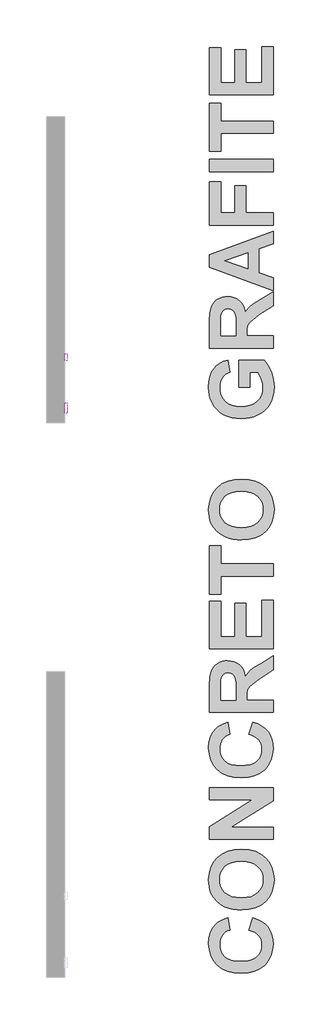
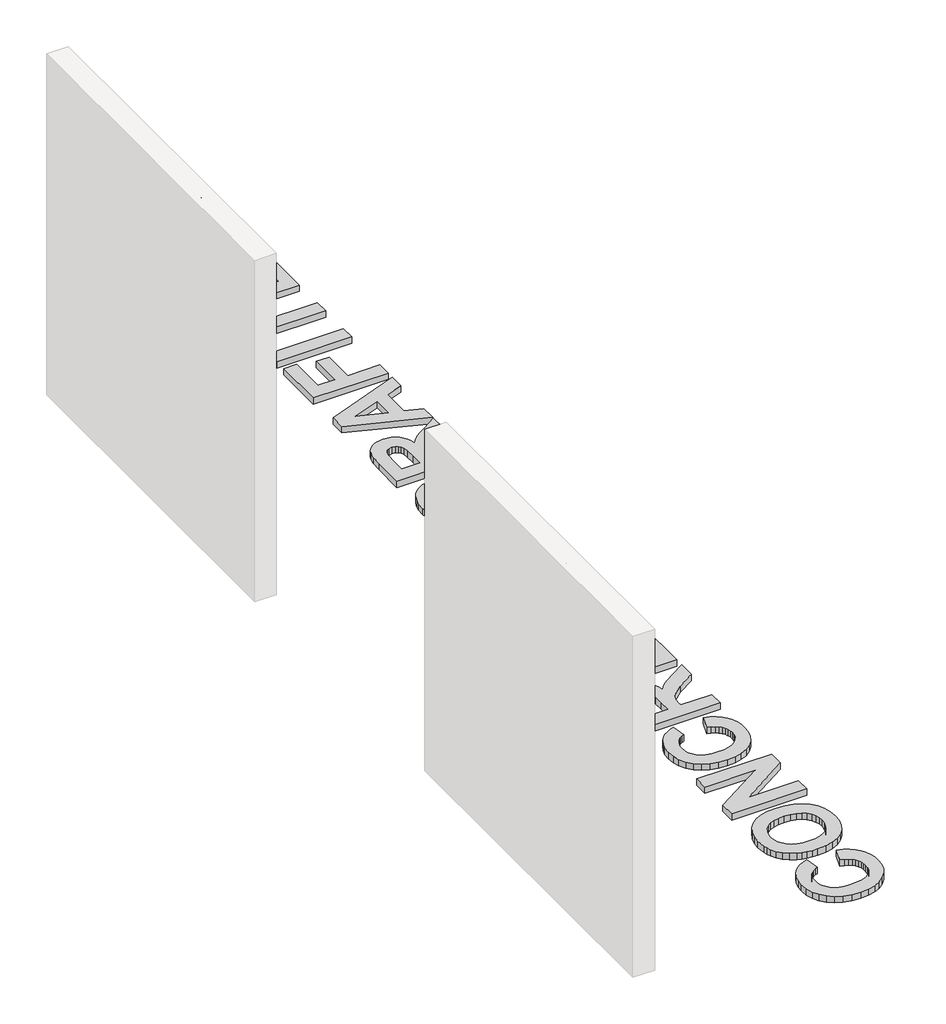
# One storey, part 5 of 6: 4 proxies.
"""IFC4 building model written with IfcOpenShell, lengths in millimetres."""

from ifc_helpers import new_model, si_unit, frame, origin, origin_with_axes, place, context, project, spatial, polyline, outline, extrude, element, save

model = new_model("IFC4")

# Units and contexts
model_context = context("Model", 3, world=origin())
ifc_project = project(units=[si_unit("LENGTHUNIT", "METRE", prefix="MILLI")], contexts=[model_context])

# Site, building, storey
site = spatial("IfcSite", under=ifc_project)
building = spatial("IfcBuilding", under=site)
storey = spatial("IfcBuildingStorey", under=building, Name="PORTOBELLO - SHOWROOM", Elevation=0.0)

# Proxies
placement = place(None, origin())
element("IfcBuildingElementProxy", 1, Name="10mm Arial", ObjectType="10mm Arial", at=placement, inside=storey, context=model_context, shape_type="SweptSolid", body=[
    extrude(outline(polyline([(10439.14637, 2557.7153138), (10439.14637, 2570.2723526), (10479.956746, 2570.2723526), (10479.956746, 2532.7238636), (10459.8090754, 2520.8780634), (10438.5087079, 2516.9049378), (10424.4218932, 2518.4837647), (10411.6901104, 2523.2202454), (10401.1135031, 2530.948833), (10393.4922144, 2541.5039806), (10388.8844924, 2554.1652526), (10387.3485851, 2568.2122134), (10388.8783611, 2582.3603418), (10393.467689, 2595.5213202), (10400.9264964, 2606.5608457), (10411.0647111, 2614.3446156), (10423.4132834, 2618.9615346), (10437.5031638, 2620.5005077), (10457.1480623, 2616.9320523), (10470.9191117, 2606.9992384), (10478.5097435, 2590.383235), (10466.9337234, 2587.121348), (10461.207027, 2598.7341563), (10451.4213659, 2605.4296086), (10437.30696, 2607.9434689), (10421.2305169, 2605.2334049), (10410.2921589, 2598.1210196), (10403.8296985, 2588.4457231), (10399.9056239, 2568.7272482), (10404.6267761, 2546.8382695), (10418.3610373, 2533.7416705), (10437.5031638, 2529.4619766), (10454.6832529, 2532.6870754), (10467.3997072, 2539.5664687), (10467.3997072, 2557.7153138), (10439.14637, 2557.7153138)])), frame((-21726.2609603, 0.0, 0.0), z_axis=(1.0, 0.0, 0.0), x_axis=(0.0, 1.0, 0.0)), (0.0, 0.0, 1.0), 20.0),
    extrude(outline(polyline([(10498.7923042, 2518.4745677), (10498.7923042, 2592.2471704), (10509.7797131, 2592.2471704), (10509.7797131, 2581.3333379), (10517.5788114, 2591.3887791), (10525.4269606, 2593.8168003), (10538.0330503, 2589.9417766), (10533.8391956, 2578.6845875), (10525.0100277, 2581.2597615), (10517.9099052, 2578.7826894), (10513.3849566, 2571.9155588), (10511.3493429, 2557.24933), (10511.3493429, 2518.4745677), (10498.7923042, 2518.4745677)])), frame((-21726.2609603, 0.0, 0.0), z_axis=(1.0, 0.0, 0.0), x_axis=(0.0, 1.0, 0.0)), (0.0, 0.0, 1.0), 20.0),
    extrude(outline(polyline([(10592.9700949, 2527.8923467), (10580.7932009, 2519.3820099), (10567.3409826, 2516.9049378), (10556.8471487, 2518.3948599), (10549.1062984, 2522.8646261), (10544.3330295, 2529.6520489), (10542.7419399, 2538.0949407), (10545.1454356, 2548.0277546), (10551.4607431, 2555.2382417), (10560.2531228, 2559.3585201), (10571.1179044, 2561.246981), (10592.8965185, 2565.563463), (10592.9700949, 2568.3593662), (10589.5120042, 2577.6299925), (10575.6305902, 2581.2597615), (10562.9263987, 2578.8440031), (10556.8686085, 2570.2723526), (10544.3115697, 2571.8419824), (10549.7439605, 2584.1047156), (10560.6823185, 2591.2906772), (10577.249271, 2593.8168003), (10592.4673229, 2591.5849828), (10601.0634988, 2585.9809138), (10604.913997, 2577.4583142), (10605.5271337, 2566.4709053), (10605.5271337, 2550.8481832), (10606.1647958, 2529.0327809), (10608.6663934, 2518.4745677), (10596.1093546, 2518.4745677), (10592.9700949, 2527.8923467)]), holes=[polyline([(10592.9700949, 2553.0064243), (10572.7120597, 2549.1559261), (10561.9085918, 2547.1203124), (10557.0157613, 2543.8093744), (10555.2989786, 2538.9778575), (10559.0391122, 2532.1843033), (10570.0142584, 2529.4619766), (10582.71845, 2532.4663462), (10590.9099558, 2539.738147), (10592.8965185, 2549.4502317), (10592.9700949, 2553.0064243)])]), frame((-21726.2609603, 0.0, 0.0), z_axis=(1.0, 0.0, 0.0), x_axis=(0.0, 1.0, 0.0)), (0.0, 0.0, 1.0), 20.0),
    extrude(outline(polyline([(10625.9323217, 2518.4745677), (10625.9323217, 2579.6901317), (10614.9449128, 2579.6901317), (10614.9449128, 2592.2471704), (10625.9323217, 2592.2471704), (10625.9323217, 2599.6783867), (10627.2566969, 2610.1507609), (10633.6823691, 2617.6310281), (10646.3375097, 2620.5005077), (10657.7909025, 2619.1270815), (10655.9514925, 2607.3548577), (10648.7164799, 2607.9434689), (10640.807017, 2605.8588043), (10638.4893605, 2598.0842314), (10638.4893605, 2592.2471704), (10652.6160291, 2592.2471704), (10652.6160291, 2579.6901317), (10638.4893605, 2579.6901317), (10638.4893605, 2518.4745677), (10625.9323217, 2518.4745677)])), frame((-21726.2609603, 0.0, 0.0), z_axis=(1.0, 0.0, 0.0), x_axis=(0.0, 1.0, 0.0)), (0.0, 0.0, 1.0), 20.0),
    extrude(outline(polyline([(-21706.2609603, 10676.1604768), (-21706.2609603, 10663.603438), (-21726.2609603, 10663.603438), (-21726.2609603, 10676.1604768), (-21706.2609603, 10676.1604768)])), frame((0.0, 0.0, 2606.373839), z_axis=(0.0, 0.0, 1.0), x_axis=(1.0, 0.0, 0.0)), (0.0, 0.0, 1.0), 12.5570388),
    extrude(outline(polyline([(-21706.2609603, 10676.1604768), (-21706.2609603, 10663.603438), (-21726.2609603, 10663.603438), (-21726.2609603, 10676.1604768), (-21706.2609603, 10676.1604768)])), frame((0.0, 0.0, 2518.4745677), z_axis=(0.0, 0.0, 1.0), x_axis=(1.0, 0.0, 0.0)), (0.0, 0.0, 1.0), 73.7726028),
    extrude(outline(polyline([(10721.6797423, 2528.9469418), (10723.2493722, 2518.1066857), (10713.8561186, 2516.9049378), (10703.3346935, 2518.9896025), (10698.0862437, 2524.4587815), (10696.5656648, 2538.7080774), (10696.5656648, 2579.6901317), (10687.1478857, 2579.6901317), (10687.1478857, 2592.2471704), (10696.5656648, 2592.2471704), (10696.5656648, 2610.1752863), (10709.1227035, 2617.5574517), (10709.1227035, 2592.2471704), (10721.6797423, 2592.2471704), (10721.6797423, 2579.6901317), (10709.1227035, 2579.6901317), (10709.1227035, 2539.0759594), (10709.7848911, 2532.6012363), (10711.9308694, 2530.3081052), (10716.2105633, 2529.4619766), (10721.6797423, 2528.9469418)])), frame((-21726.2609603, 0.0, 0.0), z_axis=(1.0, 0.0, 0.0), x_axis=(0.0, 1.0, 0.0)), (0.0, 0.0, 1.0), 20.0),
    extrude(outline(polyline([(10785.8874132, 2540.4493855), (10798.1991973, 2538.8797557), (10793.7631536, 2529.602998), (10786.6844909, 2522.6684224), (10777.1226247, 2518.345809), (10765.2369705, 2516.9049378), (10750.5032966, 2519.391207), (10739.1663998, 2526.8500144), (10731.9375186, 2538.7969822), (10729.5278915, 2554.7477324), (10731.9620441, 2571.2349771), (10739.2645017, 2583.5651553), (10750.4481143, 2591.253889), (10764.525732, 2593.8168003), (10778.164957, 2591.2600204), (10789.0634611, 2583.5896808), (10796.2095689, 2571.2840281), (10798.5916048, 2554.8213088), (10798.5180284, 2551.4367944), (10742.0849303, 2551.4367944), (10744.2584998, 2542.0374095), (10749.3076802, 2535.1273593), (10756.5948093, 2530.8783223), (10765.4822252, 2529.4619766), (10777.7940093, 2532.0862015), (10785.8874132, 2540.4493855)]), holes=[polyline([(10742.0849303, 2563.9938332), (10786.034566, 2563.9938332), (10781.0068454, 2575.3736496), (10773.6859937, 2579.7882335), (10764.4766811, 2581.2597615), (10749.0133746, 2576.5631347), (10744.1481352, 2571.0724959), (10742.0849303, 2563.9938332)])]), frame((-21726.2609603, 0.0, 0.0), z_axis=(1.0, 0.0, 0.0), x_axis=(0.0, 1.0, 0.0)), (0.0, 0.0, 1.0), 20.0),
])
element("IfcBuildingElementProxy", 2, Name="10mm Arial Narrow", ObjectType="10mm Arial Narrow", at=placement, inside=storey, context=model_context, shape_type="SweptSolid", body=[
    extrude(outline(polyline([(10849.3713743, 2518.4745677), (10849.3713743, 2619.1931714), (10880.6682589, 2619.1931714), (10896.9639605, 2617.3148507), (10908.4369466, 2607.8344075), (10912.726625, 2590.8152987), (10910.9403166, 2578.7394731), (10905.5813914, 2569.1130794), (10895.8376026, 2562.811821), (10880.8967034, 2560.7114015), (10859.1183359, 2560.7114015), (10859.1183359, 2518.4745677), (10849.3713743, 2518.4745677)]), holes=[polyline([(10859.1183359, 2572.0828568), (10882.0896909, 2572.0828568), (10897.9538863, 2576.613671), (10902.9796634, 2590.2822617), (10900.5048489, 2600.4480381), (10894.52722, 2606.247988), (10881.8612464, 2607.8217162), (10859.1183359, 2607.8217162), (10859.1183359, 2572.0828568)])]), frame((-21726.2609603, 0.0, 0.0), z_axis=(1.0, 0.0, 0.0), x_axis=(0.0, 1.0, 0.0)), (0.0, 0.0, 1.0), 20.0),
    extrude(outline(polyline([(10920.8490931, 2555.0256739), (10922.8035619, 2571.6164494), (10928.6669685, 2583.5685342), (10937.5255353, 2590.7930888), (10948.4654844, 2593.2012737), (10959.27852, 2590.7930888), (10968.1624694, 2583.5685342), (10974.1020242, 2571.8068198), (10976.0818758, 2555.7871552), (10974.1369254, 2538.6252687), (10968.3020743, 2526.4828135), (10959.4530261, 2519.2582589), (10948.4654844, 2516.8500741), (10937.6048562, 2519.2646046), (10928.7304253, 2526.5081962), (10922.8194261, 2538.4666267), (10920.8490931, 2555.0256739)]), holes=[polyline([(10930.5960547, 2555.0510566), (10931.9000916, 2542.4993052), (10935.8122022, 2533.6280471), (10941.6533989, 2528.3547886), (10948.7446942, 2526.5970357), (10955.4647674, 2528.3706528), (10961.1568407, 2533.6915039), (10965.0403958, 2542.5786262), (10966.3349141, 2555.0510566), (10965.0308772, 2567.5647339), (10961.1187667, 2576.4233006), (10955.2775699, 2581.6965592), (10948.1862746, 2583.454312), (10941.4186088, 2581.6870407), (10935.736054, 2576.3852265), (10931.8810545, 2567.5171413), (10930.5960547, 2555.0510566)])]), frame((-21726.2609603, 0.0, 0.0), z_axis=(1.0, 0.0, 0.0), x_axis=(0.0, 1.0, 0.0)), (0.0, 0.0, 1.0), 20.0),
    extrude(outline(polyline([(11047.5595946, 2526.5970357), (11049.1840882, 2516.8500741), (11041.8231015, 2516.8500741), (11033.5483372, 2518.9695306), (11029.233276, 2524.7694804), (11028.0656712, 2539.4153056), (11028.0656712, 2581.8298184), (11019.9432032, 2581.8298184), (11019.9432032, 2585.0788056), (11018.3187096, 2580.2053248), (11010.7546612, 2581.8298184), (11004.6755015, 2579.5073002), (11000.8046379, 2573.0220171), (10998.8247863, 2557.6147106), (10998.8247863, 2518.4745677), (10989.0778246, 2518.4745677), (10989.0778246, 2591.5767801), (10998.8247863, 2591.5767801), (10998.8247863, 2581.8805838), (11005.0689336, 2590.967595), (11011.4653772, 2593.2012737), (11019.9432032, 2591.5767801), (11028.0656712, 2591.5767801), (11028.0656712, 2607.8217162), (11037.8126329, 2615.9441842), (11037.8126329, 2591.5767801), (11047.5595946, 2591.5767801), (11047.5595946, 2581.8298184), (11037.8126329, 2581.8298184), (11037.8126329, 2537.1816269), (11038.6756451, 2529.1860724), (11043.2952988, 2526.5970357), (11047.5595946, 2526.5970357)])), frame((-21726.2609603, 0.0, 0.0), z_axis=(1.0, 0.0, 0.0), x_axis=(0.0, 1.0, 0.0)), (0.0, 0.0, 1.0), 20.0),
    extrude(outline(polyline([(11054.057569, 2555.0256739), (11056.0120379, 2571.6164494), (11061.8754445, 2583.5685342), (11070.7340112, 2590.7930888), (11081.6739603, 2593.2012737), (11092.4869959, 2590.7930888), (11101.3709453, 2583.5685342), (11107.3105001, 2571.8068198), (11109.2903517, 2555.7871552), (11107.3454013, 2538.6252687), (11101.5105503, 2526.4828135), (11092.6615021, 2519.2582589), (11081.6739603, 2516.8500741), (11070.8133322, 2519.2646046), (11061.9389013, 2526.5081962), (11056.0279021, 2538.4666267), (11054.057569, 2555.0256739)]), holes=[polyline([(11063.8045306, 2555.0510566), (11065.1085675, 2542.4993052), (11069.0206781, 2533.6280471), (11074.8618748, 2528.3547886), (11081.9531702, 2526.5970357), (11088.6732433, 2528.3706528), (11094.3653167, 2533.6915039), (11098.2488717, 2542.5786262), (11099.54339, 2555.0510566), (11098.2393532, 2567.5647339), (11094.3272426, 2576.4233006), (11088.4860458, 2581.6965592), (11081.3947505, 2583.454312), (11074.6270847, 2581.6870407), (11068.94453, 2576.3852265), (11065.0895305, 2567.5171413), (11063.8045306, 2555.0510566)])]), frame((-21726.2609603, 0.0, 0.0), z_axis=(1.0, 0.0, 0.0), x_axis=(0.0, 1.0, 0.0)), (0.0, 0.0, 1.0), 20.0),
    extrude(outline(polyline([(11132.0332622, 2518.4745677), (11122.2863006, 2518.4745677), (11122.2863006, 2619.1931714), (11132.0332622, 2619.1931714), (11132.0332622, 2583.7842873), (11139.4323229, 2590.8660641), (11148.6335563, 2593.2012737), (11161.5152829, 2589.0004347), (11170.7926644, 2576.2710043), (11174.270096, 2555.5840935), (11172.337837, 2539.1297501), (11166.54106, 2526.927011), (11158.1679377, 2519.3693083), (11148.5066427, 2516.8500741), (11139.1658045, 2519.4644935), (11132.0332622, 2527.2316035), (11132.0332622, 2518.4745677)]), holes=[polyline([(11132.0332622, 2555.5840935), (11134.1146447, 2538.3365403), (11140.003434, 2529.6048872), (11148.4558773, 2526.5970357), (11154.3986049, 2528.3865169), (11159.6369622, 2533.7549607), (11164.5231344, 2555.1779701), (11159.8146412, 2576.613671), (11154.5699382, 2581.7441518), (11148.2528156, 2583.454312), (11142.2751868, 2581.6648308), (11136.9828912, 2576.2963871), (11132.0332622, 2555.5840935)])]), frame((-21726.2609603, 0.0, 0.0), z_axis=(1.0, 0.0, 0.0), x_axis=(0.0, 1.0, 0.0)), (0.0, 0.0, 1.0), 20.0),
    extrude(outline(polyline([(11226.2538915, 2541.2174782), (11236.0008532, 2539.5929846), (11232.3013228, 2529.706418), (11226.4823359, 2522.5865671), (11218.7786827, 2518.2841973), (11209.4251531, 2516.8500741), (11197.8315991, 2519.2646046), (11188.6874768, 2526.5081962), (11182.7479221, 2538.3143304), (11180.7680705, 2554.4164888), (11182.7574406, 2571.0834124), (11188.7255509, 2583.2639417), (11197.7395867, 2590.7169407), (11208.8667334, 2593.2012737), (11219.5496826, 2590.8026073), (11228.2971999, 2583.6066083), (11234.132051, 2571.8671037), (11236.0770013, 2555.8379207), (11236.0008532, 2552.5889335), (11190.5150321, 2552.5889335), (11196.5180437, 2533.1457756), (11202.4480799, 2528.2342207), (11209.5520666, 2526.5970357), (11219.7305344, 2530.2521463), (11226.2538915, 2541.2174782)]), holes=[polyline([(11191.1749827, 2562.3358951), (11226.2538915, 2562.3358951), (11221.9895958, 2576.6009796), (11216.1642633, 2581.7409789), (11208.9428815, 2583.454312), (11196.7337967, 2577.7432017), (11191.1749827, 2562.3358951)])]), frame((-21726.2609603, 0.0, 0.0), z_axis=(1.0, 0.0, 0.0), x_axis=(0.0, 1.0, 0.0)), (0.0, 0.0, 1.0), 20.0),
    extrude(outline(polyline([(-21706.2609603, 11258.7437637), (-21706.2609603, 11248.9968021), (-21726.2609603, 11248.9968021), (-21726.2609603, 11258.7437637), (-21706.2609603, 11258.7437637)])), frame((0.0, 0.0, 2518.4745677), z_axis=(0.0, 0.0, 1.0), x_axis=(1.0, 0.0, 0.0)), (0.0, 0.0, 1.0), 100.7186038),
    extrude(outline(polyline([(-21706.2609603, 11284.7356615), (-21706.2609603, 11274.9886998), (-21726.2609603, 11274.9886998), (-21726.2609603, 11284.7356615), (-21706.2609603, 11284.7356615)])), frame((0.0, 0.0, 2518.4745677), z_axis=(0.0, 0.0, 1.0), x_axis=(1.0, 0.0, 0.0)), (0.0, 0.0, 1.0), 100.7186038),
    extrude(outline(polyline([(11296.1071167, 2555.0256739), (11298.0615856, 2571.6164494), (11303.9249922, 2583.5685342), (11312.7835589, 2590.7930888), (11323.7235081, 2593.2012737), (11334.5365437, 2590.7930888), (11343.4204931, 2583.5685342), (11349.3600478, 2571.8068198), (11351.3398994, 2555.7871552), (11349.3949491, 2538.6252687), (11343.560098, 2526.4828135), (11334.7110498, 2519.2582589), (11323.7235081, 2516.8500741), (11312.8628799, 2519.2646046), (11303.988449, 2526.5081962), (11298.0774498, 2538.4666267), (11296.1071167, 2555.0256739)]), holes=[polyline([(11305.8540784, 2555.0510566), (11307.1581152, 2542.4993052), (11311.0702258, 2533.6280471), (11316.9114226, 2528.3547886), (11324.0027179, 2526.5970357), (11330.7227911, 2528.3706528), (11336.4148644, 2533.6915039), (11340.2984194, 2542.5786262), (11341.5929378, 2555.0510566), (11340.2889009, 2567.5647339), (11336.3767903, 2576.4233006), (11330.5355936, 2581.6965592), (11323.4442982, 2583.454312), (11316.6766325, 2581.6870407), (11310.9940777, 2576.3852265), (11307.1390782, 2567.5171413), (11305.8540784, 2555.0510566)])]), frame((-21726.2609603, 0.0, 0.0), z_axis=(1.0, 0.0, 0.0), x_axis=(0.0, 1.0, 0.0)), (0.0, 0.0, 1.0), 20.0),
])
element("IfcBuildingElementProxy", 3, Name="550mm Arial", ObjectType="550mm Arial", at=placement, inside=storey, context=model_context, shape_type="SweptSolid", body=[
    extrude(outline(polyline([(-20097.170101, 5821.05728), (-20061.5419949, 5927.941598), (-20019.2814595, 5913.1806371), (-19982.8226689, 5894.227111), (-19952.165623, 5871.0810196), (-19927.310322, 5843.7423631), (-19908.100197, 5812.3242188), (-19894.3786791, 5776.9396643), (-19886.1457683, 5737.5886995), (-19883.4014648, 5694.2713245), (-19888.0898313, 5640.750881), (-19902.1549307, 5592.2232435), (-19925.5967632, 5548.6884118), (-19958.4153286, 5510.1463859), (-19999.3667747, 5478.6064659), (-20047.2072491, 5456.0779516), (-20101.9367519, 5442.560843), (-20163.5552829, 5438.0551401), (-20228.5313454, 5442.5999852), (-20285.8181389, 5456.2345204), (-20335.4156635, 5478.9587457), (-20377.3239191, 5510.7726612), (-20410.6295875, 5549.9975011), (-20434.4193507, 5594.9544996), (-20448.6932086, 5645.6436568), (-20453.4511613, 5702.0649727), (-20449.5282424, 5751.4015492), (-20437.7594856, 5795.8670956), (-20418.1448911, 5835.4616119), (-20390.6844588, 5870.185098), (-20370.1478479, 5888.2514008), (-20345.5578441, 5903.8995851), (-20316.9144473, 5917.1296508), (-20284.2176576, 5927.941598), (-20266.4036046, 5821.05728), (-20285.9790569, 5814.3204713), (-20303.3712439, 5804.6871394), (-20318.5801656, 5792.1572843), (-20331.6058221, 5776.7309058), (-20342.0480929, 5758.9472968), (-20349.5068578, 5739.3457497), (-20353.9821167, 5717.9262645), (-20355.4738697, 5694.6888414), (-20352.7643592, 5662.9271155), (-20344.6358277, 5634.3054644), (-20331.0882751, 5608.8238881), (-20312.1217016, 5586.4823865), (-20287.0924352, 5568.3073554), (-20255.3568041, 5555.3251903), (-20216.9148084, 5547.5358912), (-20171.766448, 5544.9394582), (-20123.9781632, 5547.4576068), (-20083.6008028, 5555.0120526), (-20050.6343668, 5567.6027957), (-20025.0788552, 5585.2298359), (-20005.9600619, 5606.8928726), (-19992.3037811, 5631.5916048), (-19984.1100125, 5659.3260325), (-19981.3787564, 5690.0961558), (-19983.1227591, 5713.0030448), (-19988.3547673, 5734.2659611), (-19997.0747811, 5753.8849048), (-20009.2828003, 5771.8598757), (-20025.2397731, 5787.799452), (-20045.2066475, 5801.3122114), (-20069.1834234, 5812.3981541), (-20097.170101, 5821.05728)])), origin_with_axes(), (0.0, 0.0, 1.0), 50.0),
    extrude(outline(polyline([(-20160.4934925, 5999.1978101), (-20201.5667144, 6000.7721966), (-20239.1954221, 6005.4953562), (-20273.3796156, 6013.3672888), (-20304.119295, 6024.3879944), (-20344.6706207, 6046.6033711), (-20380.8728124, 6075.672983), (-20410.4991135, 6109.7180042), (-20431.3227673, 6146.8596089), (-20441.0039396, 6173.598085), (-20447.9190628, 6202.3197662), (-20453.4511613, 6265.7127439), (-20448.6540664, 6323.5562266), (-20434.2627819, 6375.3109216), (-20410.2773077, 6420.976829), (-20376.6976438, 6460.5539487), (-20334.5762806, 6492.5200839), (-20284.9657087, 6515.3530376), (-20227.8659279, 6529.0528098), (-20163.2769383, 6533.6194006), (-20099.1272113, 6529.0876029), (-20042.3710121, 6515.4922099), (-19993.0083408, 6492.8332216), (-19951.0391973, 6461.1106379), (-19917.5508652, 6421.7944662), (-19893.630628, 6376.3547138), (-19879.2784857, 6324.7913806), (-19874.4944383, 6267.1044668), (-19879.25674, 6208.8086741), (-19893.5436453, 6156.8104276), (-19917.3551542, 6111.1097271), (-19950.6912666, 6071.7065728), (-19992.3777163, 6039.9839891), (-20041.2402372, 6017.3250008), (-20097.2788293, 6003.7296078), (-20160.4934925, 5999.1978101)]), holes=[polyline([(-20164.3903166, 6106.0821282), (-20120.0030546, 6108.9221127), (-20081.3392531, 6117.4420663), (-20048.3989119, 6131.6419889), (-20021.1820311, 6151.5218806), (-19999.8712743, 6175.7770011), (-19984.6493051, 6203.1026103), (-19975.5161237, 6233.4987081), (-19972.4717298, 6266.9652945), (-19975.494378, 6300.3970878), (-19984.5623225, 6330.6888064), (-19999.6755632, 6357.8404502), (-20020.8341003, 6381.8520192), (-20048.0379337, 6401.4883594), (-20081.2870634, 6415.5143167), (-20120.5814895, 6423.929891), (-20165.9212118, 6426.7350825), (-20210.6303097, 6424.0038263), (-20249.285413, 6415.8100578), (-20281.8865218, 6402.1537769), (-20308.4336359, 6383.0349837), (-20329.0137382, 6359.393091), (-20343.7138112, 6332.167512), (-20352.5338551, 6301.3582464), (-20355.4738697, 6266.9652945), (-20352.499062, 6232.5375495), (-20343.5746389, 6201.6239047), (-20328.7006005, 6174.2243603), (-20307.8769468, 6150.3389162), (-20281.0601863, 6130.9765714), (-20248.2068278, 6117.1463252), (-20209.3168712, 6108.8481774), (-20164.3903166, 6106.0821282)])]), origin_with_axes(), (0.0, 0.0, 1.0), 50.0),
    extrude(outline(polyline([(-19883.4014648, 6622.6896656), (-20444.5441347, 6622.6896656), (-20444.5441347, 6734.7233584), (-20066.8305419, 6970.0636994), (-20444.5441347, 6970.0636994), (-20444.5441347, 7076.9480175), (-19883.4014648, 7076.9480175), (-19883.4014648, 6961.4350175), (-20255.548166, 6729.5739837), (-19883.4014648, 6729.5739837), (-19883.4014648, 6622.6896656)])), origin_with_axes(), (0.0, 0.0, 1.0), 50.0),
    extrude(outline(polyline([(-20097.170101, 7549.0204224), (-20061.5419949, 7655.9047405), (-20019.2814595, 7641.1437796), (-19982.8226689, 7622.1902535), (-19952.165623, 7599.0441621), (-19927.310322, 7571.7055056), (-19908.100197, 7540.2873613), (-19894.3786791, 7504.9028067), (-19886.1457683, 7465.551842), (-19883.4014648, 7422.234467), (-19888.0898313, 7368.7140235), (-19902.1549307, 7320.1863859), (-19925.5967632, 7276.6515542), (-19958.4153286, 7238.1095284), (-19999.3667747, 7206.5696084), (-20047.2072491, 7184.041094), (-20101.9367519, 7170.5239855), (-20163.5552829, 7166.0182826), (-20228.5313454, 7170.5631277), (-20285.8181389, 7184.1976629), (-20335.4156635, 7206.9218882), (-20377.3239191, 7238.7358037), (-20410.6295875, 7277.9606436), (-20434.4193507, 7322.9176421), (-20448.6932086, 7373.6067993), (-20453.4511613, 7430.0281152), (-20449.5282424, 7479.3646917), (-20437.7594856, 7523.8302381), (-20418.1448911, 7563.4247543), (-20390.6844588, 7598.1482405), (-20370.1478479, 7616.2145433), (-20345.5578441, 7631.8627276), (-20316.9144473, 7645.0927933), (-20284.2176576, 7655.9047405), (-20266.4036046, 7549.0204224), (-20285.9790569, 7542.2836138), (-20303.3712439, 7532.6502819), (-20318.5801656, 7520.1204267), (-20331.6058221, 7504.6940483), (-20342.0480929, 7486.9104392), (-20349.5068578, 7467.3088921), (-20353.9821167, 7445.889407), (-20355.4738697, 7422.6519838), (-20352.7643592, 7390.890258), (-20344.6358277, 7362.2686069), (-20331.0882751, 7336.7870306), (-20312.1217016, 7314.445529), (-20287.0924352, 7296.2704979), (-20255.3568041, 7283.2883328), (-20216.9148084, 7275.4990337), (-20171.766448, 7272.9026007), (-20123.9781632, 7275.4207493), (-20083.6008028, 7282.9751951), (-20050.6343668, 7295.5659381), (-20025.0788552, 7313.1929784), (-20005.9600619, 7334.856015), (-19992.3037811, 7359.5547472), (-19984.1100125, 7387.289175), (-19981.3787564, 7418.0592983), (-19983.1227591, 7440.9661873), (-19988.3547673, 7462.2291036), (-19997.0747811, 7481.8480472), (-20009.2828003, 7499.8230182), (-20025.2397731, 7515.7625944), (-20045.2066475, 7529.2753539), (-20069.1834234, 7540.3612966), (-20097.170101, 7549.0204224)])), origin_with_axes(), (0.0, 0.0, 1.0), 50.0),
    extrude(outline(polyline([(-19883.4014648, 7744.9750056), (-20444.5441347, 7744.9750056), (-20444.5441347, 7981.011208), (-20440.7516899, 8057.9038978), (-20429.3743552, 8110.441437), (-20420.3107599, 8129.6124198), (-20408.2897534, 8146.7654044), (-20393.3113358, 8161.9003909), (-20375.375507, 8175.0173792), (-20355.256413, 8185.6118697), (-20333.7281995, 8193.1793629), (-20310.7908666, 8197.7198588), (-20286.4444142, 8199.2333575), (-20256.0961569, 8197.045743), (-20228.5139489, 8190.4828998), (-20203.6977901, 8179.5448277), (-20181.6476805, 8164.2315267), (-20162.8942145, 8144.5603935), (-20147.9679865, 8120.5488245), (-20136.8689964, 8092.1968197), (-20129.5972443, 8059.5043791), (-20107.2600919, 8090.5050065), (-20082.8353552, 8115.5908117), (-20047.4508006, 8141.5464436), (-19992.2341949, 8175.1565514), (-19883.4014648, 8243.76849), (-19883.4014648, 8118.9309466), (-20011.5791431, 8037.6543297), (-20087.6367991, 7973.8438351), (-20100.8407701, 7956.1341613), (-20109.1389178, 7937.3806954), (-20113.5228449, 7912.4862521), (-20114.984154, 7876.3536466), (-20114.984154, 7851.8593237), (-19883.4014648, 7851.8593237), (-19883.4014648, 7744.9750056)]), holes=[polyline([(-20212.9614455, 7851.8593237), (-20212.9614455, 7939.9553827), (-20214.5793234, 8009.4893377), (-20219.432957, 8046.909287), (-20228.2356043, 8065.9410975), (-20241.7005233, 8080.3106364), (-20259.4623867, 8089.3394386), (-20281.1558672, 8092.3490394), (-20305.1804837, 8088.3826291), (-20324.0905185, 8076.4833984), (-20337.4336617, 8057.3472087), (-20344.7576034, 8031.6699213), (-20346.5668432, 7944.8264128), (-20346.5668432, 7851.8593237), (-20212.9614455, 7851.8593237)])]), origin_with_axes(), (0.0, 0.0, 1.0), 50.0),
    extrude(outline(polyline([(-19883.4014648, 8306.1176756), (-20444.5441347, 8306.1176756), (-20444.5441347, 8724.7479214), (-20346.5668432, 8724.7479214), (-20346.5668432, 8413.0019937), (-20221.8684721, 8413.0019937), (-20221.8684721, 8706.9338684), (-20123.8911805, 8706.9338684), (-20123.8911805, 8413.0019937), (-19981.3787564, 8413.0019937), (-19981.3787564, 8733.6549479), (-19883.4014648, 8733.6549479), (-19883.4014648, 8306.1176756)])), origin_with_axes(), (0.0, 0.0, 1.0), 50.0),
    extrude(outline(polyline([(-19883.4014648, 8947.4235841), (-20346.5668432, 8947.4235841), (-20346.5668432, 8787.097107), (-20444.5441347, 8787.097107), (-20444.5441347, 9214.6343793), (-20346.5668432, 9214.6343793), (-20346.5668432, 9054.3079022), (-19883.4014648, 9054.3079022), (-19883.4014648, 8947.4235841)])), origin_with_axes(), (0.0, 0.0, 1.0), 50.0),
    extrude(outline(polyline([(-20160.4934925, 9268.0765384), (-20201.5667144, 9269.6509249), (-20239.1954221, 9274.3740845), (-20273.3796156, 9282.2460171), (-20304.119295, 9293.2667227), (-20344.6706207, 9315.4820994), (-20380.8728124, 9344.5517113), (-20410.4991135, 9378.5967325), (-20431.3227673, 9415.7383372), (-20441.0039396, 9442.4768133), (-20447.9190628, 9471.1984944), (-20453.4511613, 9534.5914722), (-20448.6540664, 9592.4349548), (-20434.2627819, 9644.1896499), (-20410.2773077, 9689.8555573), (-20376.6976438, 9729.432677), (-20334.5762806, 9761.3988122), (-20284.9657087, 9784.2317659), (-20227.8659279, 9797.9315381), (-20163.2769383, 9802.4981288), (-20099.1272113, 9797.9663312), (-20042.3710121, 9784.3709382), (-19993.0083408, 9761.7119498), (-19951.0391973, 9729.9893662), (-19917.5508652, 9690.6731945), (-19893.630628, 9645.2334421), (-19879.2784857, 9593.6701089), (-19874.4944383, 9535.9831951), (-19879.25674, 9477.6874024), (-19893.5436453, 9425.6891559), (-19917.3551542, 9379.9884554), (-19950.6912666, 9340.585301), (-19992.3777163, 9308.8627174), (-20041.2402372, 9286.203729), (-20097.2788293, 9272.608336), (-20160.4934925, 9268.0765384)]), holes=[polyline([(-20164.3903166, 9374.9608565), (-20120.0030546, 9377.800841), (-20081.3392531, 9386.3207946), (-20048.3989119, 9400.5207172), (-20021.1820311, 9420.4006089), (-19999.8712743, 9444.6557294), (-19984.6493051, 9471.9813386), (-19975.5161237, 9502.3774363), (-19972.4717298, 9535.8440228), (-19975.494378, 9569.2758161), (-19984.5623225, 9599.5675347), (-19999.6755632, 9626.7191785), (-20020.8341003, 9650.7307475), (-20048.0379337, 9670.3670877), (-20081.2870634, 9684.3930449), (-20120.5814895, 9692.8086193), (-20165.9212118, 9695.6138107), (-20210.6303097, 9692.8825546), (-20249.285413, 9684.688786), (-20281.8865218, 9671.0325052), (-20308.4336359, 9651.9137119), (-20329.0137382, 9628.2718193), (-20343.7138112, 9601.0462402), (-20352.5338551, 9570.2369747), (-20355.4738697, 9535.8440228), (-20352.499062, 9501.4162777), (-20343.5746389, 9470.502633), (-20328.7006005, 9443.1030886), (-20307.8769468, 9419.2176444), (-20281.0601863, 9399.8552997), (-20248.2068278, 9386.0250535), (-20209.3168712, 9377.7269057), (-20164.3903166, 9374.9608565)])]), origin_with_axes(), (0.0, 0.0, 1.0), 50.0),
])
element("IfcBuildingElementProxy", 4, Name="550mm Arial", ObjectType="550mm Arial", at=placement, inside=storey, context=model_context, shape_type="SweptSolid", body=[
    extrude(outline(polyline([(-20088.2630744, 10614.1729619), (-20186.240366, 10614.1729619), (-20186.240366, 10854.6626776), (-19962.451325, 10854.6626776), (-19945.511448, 10835.1611605), (-19929.6240613, 10811.7280264), (-19901.0067594, 10753.0669065), (-19889.4076189, 10719.7003501), (-19881.1225185, 10686.1250354), (-19876.1514583, 10652.3409622), (-19874.4944383, 10618.3481305), (-19876.7994793, 10576.4485732), (-19883.7146024, 10537.3150652), (-19895.2398076, 10500.9476063), (-19911.3750949, 10467.3461968), (-19931.7942792, 10437.1284135), (-19956.1711755, 10410.9118335), (-19984.5057837, 10388.6964569), (-20016.7981039, 10370.4822835), (-20051.8216803, 10356.2954083), (-20088.3500571, 10346.161926), (-20126.3832343, 10340.0818366), (-20165.9212118, 10338.0551401), (-20208.4079022, 10340.3471338), (-20248.4677758, 10347.2231147), (-20286.1008326, 10358.6830829), (-20321.3070727, 10374.7270383), (-20353.3210483, 10395.189714), (-20381.377312, 10419.9058427), (-20405.4758637, 10448.8754245), (-20425.6167034, 10482.0984594), (-20437.7942787, 10510.6809683), (-20446.4925468, 10542.5688191), (-20451.7115076, 10577.7620117), (-20453.4511613, 10616.2605462), (-20450.6416207, 10665.5318857), (-20442.2129989, 10709.1058596), (-20428.165296, 10746.9824679), (-20408.4985118, 10779.1617107), (-20383.8737149, 10805.8784411), (-20354.9519736, 10827.3675123), (-20321.7332878, 10843.6289245), (-20284.2176576, 10854.6626776), (-20266.4036046, 10747.7783595), (-20285.9790569, 10740.1499784), (-20303.3712439, 10729.7903411), (-20318.5801656, 10716.6994476), (-20331.6058221, 10700.877298), (-20342.0480929, 10682.6196333), (-20349.5068578, 10662.2221947), (-20353.9821167, 10639.6849821), (-20355.4738697, 10615.0079956), (-20352.5599499, 10578.031658), (-20343.8181905, 10545.0391272), (-20329.2485914, 10516.0304032), (-20308.8511528, 10491.0054859), (-20282.7128572, 10470.8515988), (-20250.9206874, 10456.4559651), (-20213.4746434, 10447.8185849), (-20170.3747251, 10444.9394582), (-20123.9912106, 10447.8011884), (-20083.7921647, 10456.386379), (-20049.7775874, 10470.69503), (-20021.9474786, 10490.7271414), (-20000.3018385, 10515.4041279), (-19984.840667, 10543.6474043), (-19975.5639641, 10575.4569707), (-19972.4717298, 10610.8328269), (-19975.8640544, 10647.5221217), (-19986.041028, 10684.3853818), (-20001.0542387, 10718.7087476), (-20018.9552744, 10747.7783595), (-20088.2630744, 10747.7783595), (-20088.2630744, 10614.1729619)])), origin_with_axes(), (0.0, 0.0, 1.0), 50.0),
    extrude(outline(polyline([(-19883.4014648, 10961.5469957), (-20444.5441347, 10961.5469957), (-20444.5441347, 11197.5831981), (-20440.7516899, 11274.4758879), (-20429.3743552, 11327.013427), (-20420.3107599, 11346.1844099), (-20408.2897534, 11363.3373945), (-20393.3113358, 11378.472381), (-20375.375507, 11391.5893692), (-20355.256413, 11402.1838597), (-20333.7281995, 11409.751353), (-20310.7908666, 11414.2918489), (-20286.4444142, 11415.8053475), (-20256.0961569, 11413.6177331), (-20228.5139489, 11407.0548899), (-20203.6977901, 11396.1168178), (-20181.6476805, 11380.8035168), (-20162.8942145, 11361.1323836), (-20147.9679865, 11337.1208145), (-20136.8689964, 11308.7688098), (-20129.5972443, 11276.0763692), (-20107.2600919, 11307.0769966), (-20082.8353552, 11332.1628017), (-20047.4508006, 11358.1184337), (-19992.2341949, 11391.7285415), (-19883.4014648, 11460.3404801), (-19883.4014648, 11335.5029367), (-20011.5791431, 11254.2263198), (-20087.6367991, 11190.4158252), (-20100.8407701, 11172.7061514), (-20109.1389178, 11153.9526854), (-20113.5228449, 11129.0582422), (-20114.984154, 11092.9256366), (-20114.984154, 11068.4313137), (-19883.4014648, 11068.4313137), (-19883.4014648, 10961.5469957)]), holes=[polyline([(-20212.9614455, 11068.4313137), (-20212.9614455, 11156.5273728), (-20214.5793234, 11226.0613278), (-20219.432957, 11263.481277), (-20228.2356043, 11282.5130876), (-20241.7005233, 11296.8826264), (-20259.4623867, 11305.9114287), (-20281.1558672, 11308.9210295), (-20305.1804837, 11304.9546192), (-20324.0905185, 11293.0553885), (-20337.4336617, 11273.9191987), (-20344.7576034, 11248.2419114), (-20346.5668432, 11161.3984029), (-20346.5668432, 11068.4313137), (-20212.9614455, 11068.4313137)])]), origin_with_axes(), (0.0, 0.0, 1.0), 50.0),
    extrude(outline(polyline([(-19883.4014648, 11994.7620705), (-19883.4014648, 11882.4500332), (-20008.0998359, 11838.4715898), (-20008.0998359, 11626.5121934), (-19883.4014648, 11583.0904391), (-19883.4014648, 11469.2475066), (-20444.5441347, 11674.1091163), (-20444.5441347, 11787.9520488), (-19883.4014648, 11994.7620705)]), holes=[polyline([(-20106.0771275, 11804.2352066), (-20310.9387371, 11732.0047886), (-20106.0771275, 11660.7485765), (-20106.0771275, 11804.2352066)])]), origin_with_axes(), (0.0, 0.0, 1.0), 50.0),
    extrude(outline(polyline([(-19883.4014648, 12048.2042296), (-20444.5441347, 12048.2042296), (-20444.5441347, 12431.2063694), (-20346.5668432, 12431.2063694), (-20346.5668432, 12155.0885477), (-20221.8684721, 12155.0885477), (-20221.8684721, 12395.5782634), (-20123.8911805, 12395.5782634), (-20123.8911805, 12155.0885477), (-19883.4014648, 12155.0885477), (-19883.4014648, 12048.2042296)])), origin_with_axes(), (0.0, 0.0, 1.0), 50.0),
    extrude(outline(polyline([(-19883.4014648, 12520.2766345), (-20444.5441347, 12520.2766345), (-20444.5441347, 12627.1609526), (-19883.4014648, 12627.1609526), (-19883.4014648, 12520.2766345)])), origin_with_axes(), (0.0, 0.0, 1.0), 50.0),
    extrude(outline(polyline([(-19883.4014648, 12858.7436418), (-20346.5668432, 12858.7436418), (-20346.5668432, 12698.4171646), (-20444.5441347, 12698.4171646), (-20444.5441347, 13125.954437), (-20346.5668432, 13125.954437), (-20346.5668432, 12965.6279599), (-19883.4014648, 12965.6279599), (-19883.4014648, 12858.7436418)])), origin_with_axes(), (0.0, 0.0, 1.0), 50.0),
    extrude(outline(polyline([(-19883.4014648, 13197.2106491), (-20444.5441347, 13197.2106491), (-20444.5441347, 13615.8408949), (-20346.5668432, 13615.8408949), (-20346.5668432, 13304.0949671), (-20221.8684721, 13304.0949671), (-20221.8684721, 13598.0268419), (-20123.8911805, 13598.0268419), (-20123.8911805, 13304.0949671), (-19981.3787564, 13304.0949671), (-19981.3787564, 13624.7479214), (-19883.4014648, 13624.7479214), (-19883.4014648, 13197.2106491)])), origin_with_axes(), (0.0, 0.0, 1.0), 50.0),
])

save(model, "model.ifc")
